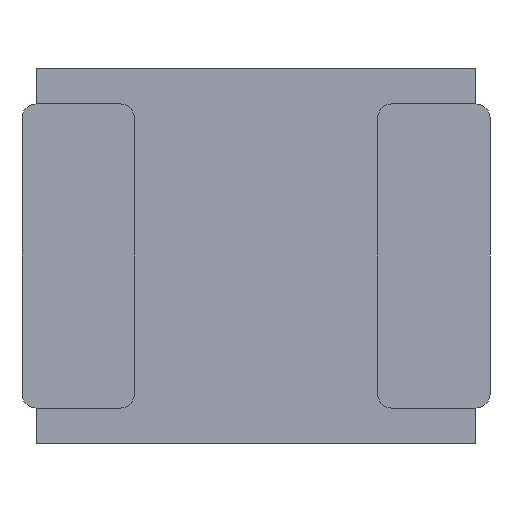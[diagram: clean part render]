
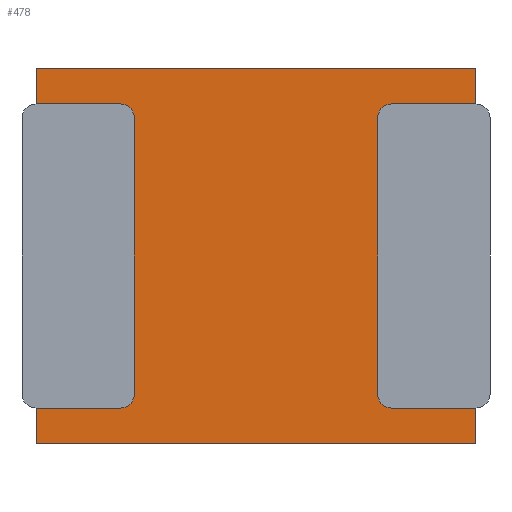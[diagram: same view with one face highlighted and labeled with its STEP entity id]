
A CAD part, front view. The second image highlights one B-rep face of the part: STEP entity #478.
In plain terms, the highlighted planar face has unit normal (0, -1, 0).
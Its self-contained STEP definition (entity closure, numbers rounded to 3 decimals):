
#59 = VECTOR ( 'NONE', #666, 1000. ) ;
#96 = EDGE_LOOP ( 'NONE', ( #873, #128, #438, #302 ) ) ;
#107 = VERTEX_POINT ( 'NONE', #748 ) ;
#128 = ORIENTED_EDGE ( 'NONE', *, *, #533, .F. ) ;
#139 = LINE ( 'NONE', #297, #469 ) ;
#168 = PLANE ( 'NONE',  #749 ) ;
#228 = CARTESIAN_POINT ( 'NONE',  ( 1.175, 0.075, -1. ) ) ;
#297 = CARTESIAN_POINT ( 'NONE',  ( -1.175, 0.075, 1. ) ) ;
#302 = ORIENTED_EDGE ( 'NONE', *, *, #546, .T. ) ;
#317 = DIRECTION ( 'NONE',  ( 0., 1., 0. ) ) ;
#332 = CARTESIAN_POINT ( 'NONE',  ( -1.175, 0.075, 1. ) ) ;
#364 = EDGE_CURVE ( 'NONE', #107, #682, #863, .T. ) ;
#391 = CARTESIAN_POINT ( 'NONE',  ( -1.175, 0.075, 1. ) ) ;
#396 = EDGE_CURVE ( 'NONE', #550, #470, #139, .T. ) ;
#425 = DIRECTION ( 'NONE',  ( 1., 0., 0. ) ) ;
#435 = LINE ( 'NONE', #877, #59 ) ;
#438 = ORIENTED_EDGE ( 'NONE', *, *, #396, .F. ) ;
#469 = VECTOR ( 'NONE', #510, 1000. ) ;
#470 = VERTEX_POINT ( 'NONE', #518 ) ;
#478 = ADVANCED_FACE ( 'NONE', ( #826 ), #168, .F. ) ;
#510 = DIRECTION ( 'NONE',  ( 1., 0., 0. ) ) ;
#518 = CARTESIAN_POINT ( 'NONE',  ( 1.175, 0.075, 1. ) ) ;
#533 = EDGE_CURVE ( 'NONE', #470, #682, #435, .T. ) ;
#538 = DIRECTION ( 'NONE',  ( 0., 0., -1. ) ) ;
#546 = EDGE_CURVE ( 'NONE', #550, #107, #754, .T. ) ;
#550 = VERTEX_POINT ( 'NONE', #735 ) ;
#666 = DIRECTION ( 'NONE',  ( 0., 0., -1. ) ) ;
#668 = VECTOR ( 'NONE', #538, 1000. ) ;
#671 = VECTOR ( 'NONE', #425, 1000. ) ;
#682 = VERTEX_POINT ( 'NONE', #228 ) ;
#735 = CARTESIAN_POINT ( 'NONE',  ( -1.175, 0.075, 1. ) ) ;
#748 = CARTESIAN_POINT ( 'NONE',  ( -1.175, 0.075, -1. ) ) ;
#749 = AXIS2_PLACEMENT_3D ( 'NONE', #391, #317, #867 ) ;
#754 = LINE ( 'NONE', #332, #668 ) ;
#780 = CARTESIAN_POINT ( 'NONE',  ( -1.175, 0.075, -1. ) ) ;
#826 = FACE_OUTER_BOUND ( 'NONE', #96, .T. ) ;
#863 = LINE ( 'NONE', #780, #671 ) ;
#867 = DIRECTION ( 'NONE',  ( 0., 0., 1. ) ) ;
#873 = ORIENTED_EDGE ( 'NONE', *, *, #364, .T. ) ;
#877 = CARTESIAN_POINT ( 'NONE',  ( 1.175, 0.075, 1. ) ) ;
